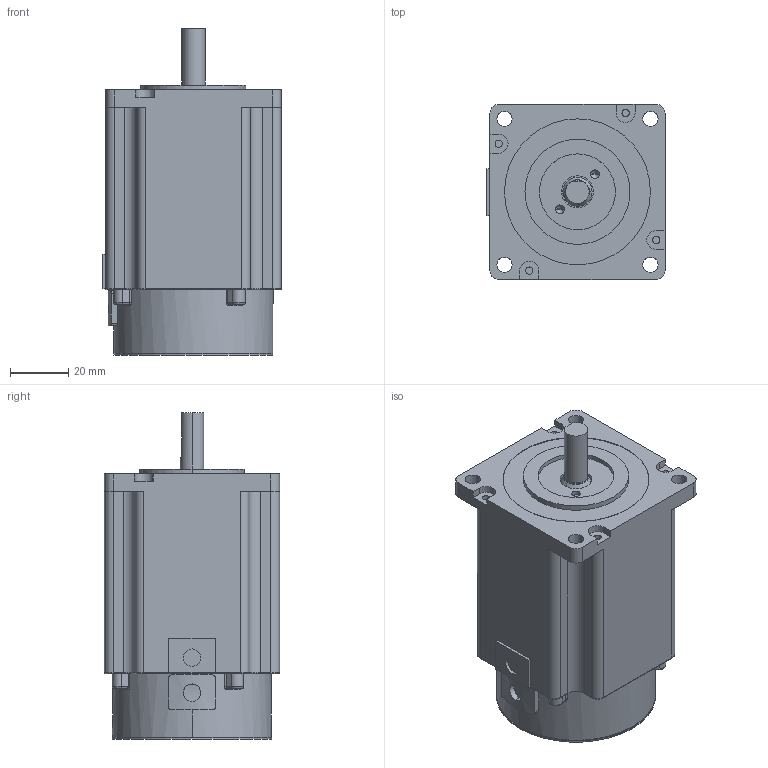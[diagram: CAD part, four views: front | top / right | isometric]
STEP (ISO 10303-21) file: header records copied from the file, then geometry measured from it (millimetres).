
FILE_DESCRIPTION((''),'2;1');
FILE_NAME('QL60HS65','2022-07-02T17:12:20',('qingl'),(''),'CREO PARAMETRIC BY PTC INC, 2019224','CREO PARAMETRIC BY PTC INC, 2019224','');
FILE_SCHEMA(('CONFIG_CONTROL_DESIGN'));
Length unit declared in the file: millimetre
Products named in the file (1): QL60HS65
Bounding box: 61 x 60 x 112 mm (x, y, z)
Volume: 272718.4 mm3; surface area: 28829 mm2
Topology: 1 solids, 1 shells, 339 faces, 915 edges, 598 vertices
Faces by surface type: cylinder 215, plane 76, torus 26, bspline 16, cone 6
Entity records: 14570 total; most frequent: CARTESIAN_POINT 6281, ORIENTED_EDGE 1822, DIRECTION 1605, EDGE_CURVE 911, AXIS2_PLACEMENT_3D 621, VERTEX_POINT 598, EDGE_LOOP 371, VECTOR 363
